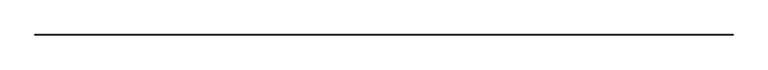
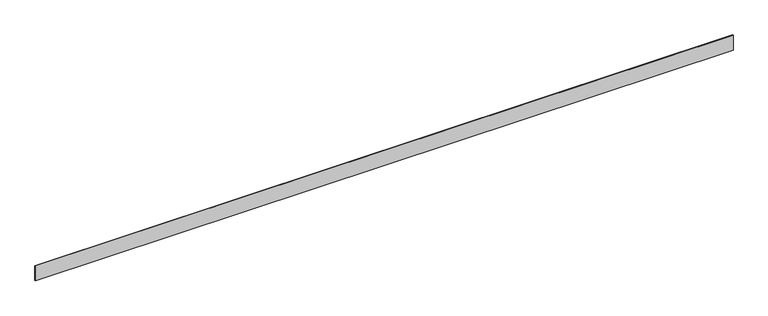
"""IFC4 building model written with IfcOpenShell, lengths in millimetres: proxy geometry, Electrical_Installation_Hager_Partition-Wall : Electrical_Installation_Hager_Partition-Wall."""

from ifc_helpers import new_model, si_unit, frame, origin, place, context, project, spatial, polyline, outline, extrude, source, transform, mapped, element, save


def electrical_fixtures_c9ef2ea7(model_context):
    return source(origin(), model_context, "Body", "SweptSolid", [
        extrude(outline(polyline([(2800.0, 71.0), (2800.0, 69.0), (0.0, 69.0), (0.0, 71.0), (2800.0, 71.0)])), frame((0.0, 0.0, -32.5053974), z_axis=(0.0, 0.0, 1.0), x_axis=(1.0, 0.0, 0.0)), (0.0, 0.0, 1.0), 63.0),
    ])


if __name__ == "__main__":
    model = new_model("IFC4")
    model_context = context("Model", 3, world=origin())
    ifc_project = project(units=[si_unit("LENGTHUNIT", "METRE", prefix="MILLI")], contexts=[model_context])
    site = spatial("IfcSite", under=ifc_project)
    building = spatial("IfcBuilding", under=site)
    placement = place(None, origin())
    electrical_fixtures_shape = electrical_fixtures_c9ef2ea7(model_context)
    element("IfcBuildingElementProxy", 1, Name="Electrical_Installation_Hager_Partition-Wall : Electrical_Installation_Hager_Partition-Wall", ObjectType="Electrical_Installation_Hager_Partition-Wall : Electrical_Installation_Hager_Partition-Wall", at=placement, inside=building, context=model_context, shape_type="MappedRepresentation", body=[
        mapped(electrical_fixtures_shape, transform((0.0, 0.0, 0.0), x_axis=(1.0, 0.0, 0.0), y_axis=(0.0, 1.0, 0.0), z_axis=(0.0, 0.0, 1.0))),
    ])
    save(model, "model.ifc")
